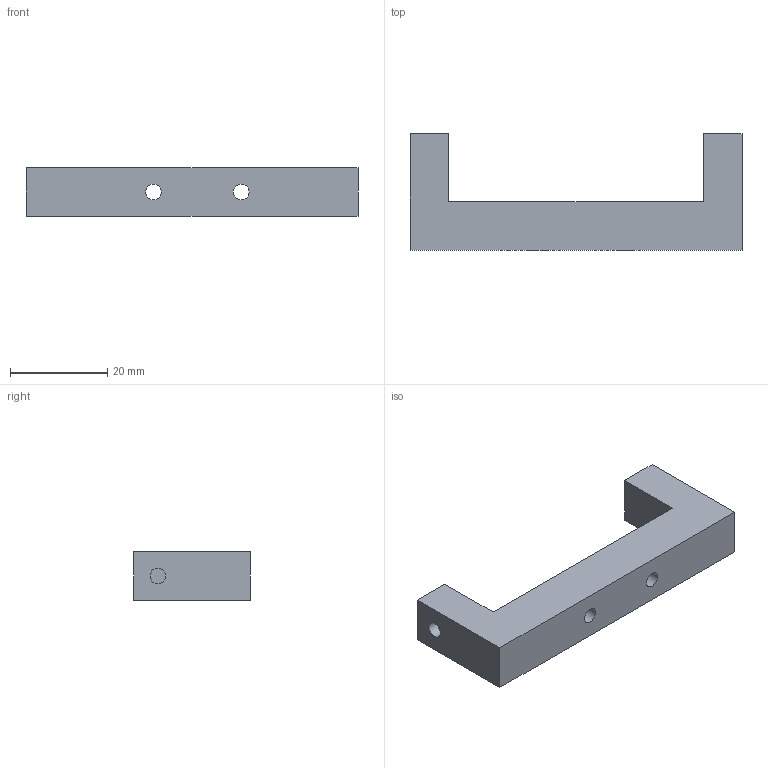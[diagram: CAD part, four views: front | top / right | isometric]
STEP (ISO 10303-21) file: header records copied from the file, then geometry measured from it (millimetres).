
FILE_DESCRIPTION(('Open CASCADE Model'),'2;1');
FILE_NAME('Open CASCADE Shape Model','2026-11-08T07:33:08',('Author'),( 'Open CASCADE'),'Open CASCADE STEP processor 7.8','Open CASCADE 7.8' ,'Unknown');
FILE_SCHEMA(('AUTOMOTIVE_DESIGN { 1 0 10303 214 1 1 1 1 }'));
Length unit declared in the file: millimetre
Products named in the file (1): Open CASCADE STEP translator 7.8 10
Bounding box: 68.2 x 24 x 10 mm (x, y, z)
Volume: 8828.9 mm3; surface area: 4171.7 mm2
Topology: 1 solids, 1 shells, 13 faces, 33 edges, 22 vertices
Faces by surface type: plane 10, cylinder 3
Full cylindrical faces by diameter (mm): 3.242 x3
Entity records: 862 total; most frequent: CARTESIAN_POINT 171, DIRECTION 127, LINE 87, VECTOR 87, ORIENTED_EDGE 66, PCURVE 66, DEFINITIONAL_REPRESENTATION 66, EDGE_CURVE 33
